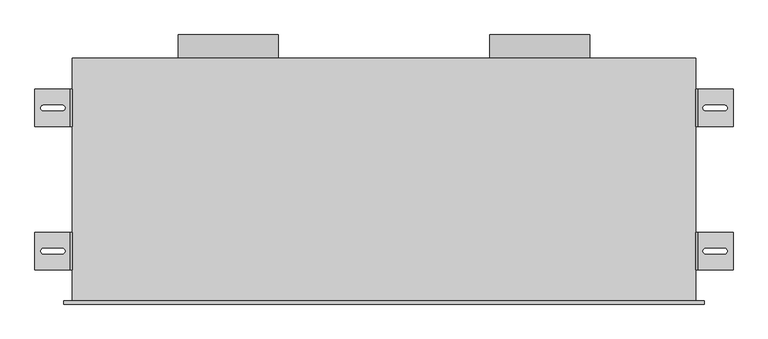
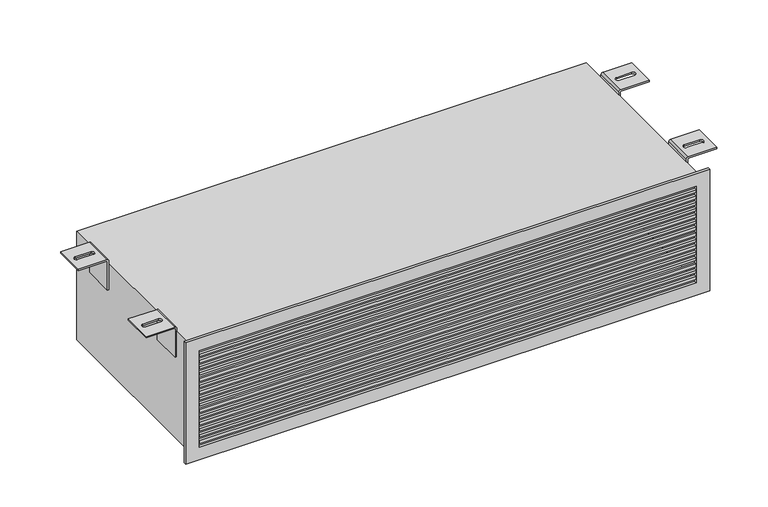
"""IFC4 building model written with IfcOpenShell, lengths in millimetres: air terminal geometry, EOL - Mural - 2 piquages : EOL-M2x160-1000x225-2."""

from ifc_helpers import new_model, si_unit, point, frame, frame_2d, origin, place, context, project, spatial, polyline, circle_curve, ellipse_curve, trimmed, segment, composite_curve, outline, extrude, source, transform, mapped, element, save
from ifc_brep_helpers import plane_surface, cylinder_surface, revolved_surface, extruded_surface, advanced_brep


def air_terminal_380ac813(model_context):
    return source(origin(), model_context, "Body", "SolidModel", [
        advanced_brep(
        [(504.0013366, 110.0, 121.5), (560.0, 110.0, 121.5), (560.0, 110.0, 118.5), (504.0, 110.0, 118.5), (503.0, 110.0, 117.5), (503.0, 110.0, 58.5), (500.0, 110.0, 58.5), (500.0, 110.0, 117.4986634), (504.0013366, 50.0, 121.5), (500.0, 50.0, 117.4986634), (500.0, 50.0, 58.5), (503.0, 50.0, 58.5), (503.0, 50.0, 117.5), (504.0, 50.0, 118.5), (560.0, 50.0, 118.5), (560.0, 50.0, 121.5), (546.0287952, 75.4804328, 121.5), (516.0287952, 75.4804328, 121.5), (516.0287952, 84.4804328, 121.5), (546.0287952, 84.4804328, 121.5), (516.0287952, 75.4804328, 118.5), (546.0287952, 75.4804328, 118.5), (546.0287952, 84.4804328, 118.5), (516.0287952, 84.4804328, 118.5)],
        [
            (0, 1),
            (1, 2),
            (2, 3),
            (3, 4, circle_curve(frame((504.0, 110.0, 117.5), z_axis=(0.0, -1.0, 0.0), x_axis=(-1.0000000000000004, 0.0, 0.0)), 1.0)),
            (4, 5),
            (5, 6),
            (6, 7),
            (7, 0, circle_curve(frame((504.0013366, 110.0, 117.4986634), z_axis=(0.0, 1.0, 0.0), x_axis=(-1.0000000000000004, 0.0, 0.0)), 4.0013366)),
            (8, 9, circle_curve(frame((504.0013366, 50.0, 117.4986634), z_axis=(0.0, -1.0, 0.0), x_axis=(-1.0000000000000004, 0.0, 0.0)), 4.0013366)),
            (9, 10),
            (10, 11),
            (11, 12),
            (12, 13, circle_curve(frame((504.0, 50.0, 117.5), z_axis=(0.0, 1.0, 0.0), x_axis=(-1.0000000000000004, 0.0, 0.0)), 1.0)),
            (13, 14),
            (14, 15),
            (15, 8),
            (0, 8),
            (15, 1),
            (16, 17),
            (17, 18, circle_curve(frame((516.0287952, 79.9804328, 121.5), z_axis=(0.0, 0.0, -1.0), x_axis=(0.0, -1.0, 0.0)), 4.5)),
            (18, 19),
            (19, 16, circle_curve(frame((546.0287952, 79.9804328, 121.5), z_axis=(0.0, 0.0, -1.0), x_axis=(0.0, -1.0, 0.0)), 4.5)),
            (14, 2),
            (13, 3),
            (20, 21),
            (21, 22, ellipse_curve(frame((546.0287952, 79.9804328, 118.5), z_axis=(0.0, 0.0, 1.0), x_axis=(0.0, -1.0, 0.0)), 4.5, 4.5)),
            (22, 23),
            (23, 20, ellipse_curve(frame((516.0287952, 79.9804328, 118.5), z_axis=(0.0, 0.0, 1.0), x_axis=(0.0, -1.0, 0.0)), 4.5, 4.5)),
            (12, 4),
            (11, 5),
            (10, 6),
            (9, 7),
            (16, 21),
            (20, 17),
            (19, 22),
            (18, 23),
        ],
        [
            plane_surface(frame((560.0, 110.0, 121.5), z_axis=(0.0, 1.0, 0.0), x_axis=(1.0, 0.0, 0.0))),
            plane_surface(frame((560.0, 50.0, 121.5), z_axis=(0.0, -1.0, 0.0), x_axis=(-1.0, 0.0, 0.0))),
            plane_surface(frame((504.0013366, 110.0, 121.5), z_axis=(0.0, 0.0, 1.0), x_axis=(0.0, -1.0, 0.0))),
            plane_surface(frame((560.0, 110.0, 121.5), z_axis=(1.0, 0.0, 0.0), x_axis=(0.0, -1.0, 0.0))),
            plane_surface(frame((560.0, 110.0, 118.5), z_axis=(0.0, 0.0, -1.0), x_axis=(0.0, -1.0, 0.0))),
            revolved_surface(polyline([(503.0, 50.0, 117.5), (503.0, 110.00000000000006, 117.5)]), (504.0, 50.0, 117.5), (0.0, -1.0000000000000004, 0.0)),
            plane_surface(frame((503.0, 110.0, 117.5), z_axis=(1.0, 0.0, 0.0), x_axis=(0.0, -1.0, 0.0))),
            plane_surface(frame((503.0, 110.0, 58.5), z_axis=(0.0, 0.0, -1.0), x_axis=(0.0, -1.0, 0.0))),
            plane_surface(frame((500.0, 110.0, 58.5), z_axis=(-1.0, 0.0, 0.0), x_axis=(0.0, -1.0, 0.0))),
            cylinder_surface(frame((504.0013366, 50.0, 117.4986634), z_axis=(0.0, 1.0000000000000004, 0.0), x_axis=(-1.0000000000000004, 0.0, 0.0)), 4.0013366),
            plane_surface(frame((516.0287952, 75.4804328, 121.5), z_axis=(0.0, 1.0, 0.0), x_axis=(0.0, 0.0, -1.0))),
            extruded_surface(trimmed(ellipse_curve(frame((546.0287952, 79.9804328, 118.5), z_axis=(0.0, 0.0, 1.0), x_axis=(0.0, -1.0, 0.0)), 4.5, 4.5), [point((546.0287952, 75.4804328, 118.5))], [point((546.0287952, 84.4804328, 118.5))], True, "CARTESIAN"), (0.0, 0.0, -3.0), 3.0),
            plane_surface(frame((546.0287952, 84.4804328, 121.5), z_axis=(0.0, -1.0, 0.0), x_axis=(0.0, 0.0, -1.0))),
            extruded_surface(trimmed(ellipse_curve(frame((516.0287952, 79.9804328, 118.5), z_axis=(0.0, 0.0, 1.0), x_axis=(0.0, -1.0, 0.0)), 4.5, 4.5), [point((516.0287952, 84.4804328, 118.5))], [point((516.0287952, 75.4804328, 118.5))], True, "CARTESIAN"), (0.0, 0.0, -3.0), 3.0),
        ],
        [
            (0, [[1, 2, 3, 4, 5, 6, 7, 8]]),
            (1, [[9, 10, 11, 12, 13, 14, 15, 16]]),
            (2, [[-1, 17, -16, 18], [19, 20, 21, 22]]),
            (3, [[-2, -18, -15, 23]]),
            (4, [[-3, -23, -14, 24], [25, 26, 27, 28]]),
            (5, [[-4, -24, -13, 29]]),
            (6, [[-5, -29, -12, 30]]),
            (7, [[-6, -30, -11, 31]]),
            (8, [[-7, -31, -10, 32]]),
            (9, [[-8, -32, -9, -17]]),
            (10, [[33, -25, 34, -19]]),
            (11, [[-33, -22, 35, -26]]),
            (12, [[-35, -21, 36, -27]]),
            (13, [[-34, -28, -36, -20]]),
        ],
    ),
        advanced_brep(
        [(504.0013366, 340.0, 121.5), (560.0, 340.0, 121.5), (560.0, 340.0, 118.5), (504.0, 340.0, 118.5), (503.0, 340.0, 117.5), (503.0, 340.0, 58.5), (500.0, 340.0, 58.5), (500.0, 340.0, 117.4986634), (504.0013366, 280.0, 121.5), (500.0, 280.0, 117.4986634), (500.0, 280.0, 58.5), (503.0, 280.0, 58.5), (503.0, 280.0, 117.5), (504.0, 280.0, 118.5), (560.0, 280.0, 118.5), (560.0, 280.0, 121.5), (546.0287952, 305.4804328, 121.5), (516.0287952, 305.4804328, 121.5), (516.0287952, 314.4804328, 121.5), (546.0287952, 314.4804328, 121.5), (516.0287952, 305.4804328, 118.5), (546.0287952, 305.4804328, 118.5), (546.0287952, 314.4804328, 118.5), (516.0287952, 314.4804328, 118.5)],
        [
            (0, 1),
            (1, 2),
            (2, 3),
            (3, 4, circle_curve(frame((504.0, 340.0, 117.5), z_axis=(0.0, -1.0, 0.0), x_axis=(-1.0, 0.0, 0.0)), 1.0)),
            (4, 5),
            (5, 6),
            (6, 7),
            (7, 0, circle_curve(frame((504.0013366, 340.0, 117.4986634), z_axis=(0.0, 1.0, 0.0), x_axis=(-1.0, 0.0, 0.0)), 4.0013366)),
            (8, 9, circle_curve(frame((504.0013366, 280.0, 117.4986634), z_axis=(0.0, -1.0, 0.0), x_axis=(-1.0, 0.0, 0.0)), 4.0013366)),
            (9, 10),
            (10, 11),
            (11, 12),
            (12, 13, circle_curve(frame((504.0, 280.0, 117.5), z_axis=(0.0, 1.0, 0.0), x_axis=(-1.0, 0.0, 0.0)), 1.0)),
            (13, 14),
            (14, 15),
            (15, 8),
            (0, 8),
            (15, 1),
            (16, 17),
            (17, 18, circle_curve(frame((516.0287952, 309.9804328, 121.5), z_axis=(0.0, 0.0, -1.0), x_axis=(0.0, -1.0, 0.0)), 4.5)),
            (18, 19),
            (19, 16, circle_curve(frame((546.0287952, 309.9804328, 121.5), z_axis=(0.0, 0.0, -1.0), x_axis=(0.0, -1.0, 0.0)), 4.5)),
            (14, 2),
            (13, 3),
            (20, 21),
            (21, 22, ellipse_curve(frame((546.0287952, 309.9804328, 118.5), z_axis=(0.0, 0.0, 1.0), x_axis=(0.0, -1.0, 0.0)), 4.5, 4.5)),
            (22, 23),
            (23, 20, ellipse_curve(frame((516.0287952, 309.9804328, 118.5), z_axis=(0.0, 0.0, 1.0), x_axis=(0.0, -1.0, 0.0)), 4.5, 4.5)),
            (12, 4),
            (11, 5),
            (10, 6),
            (9, 7),
            (16, 21),
            (20, 17),
            (19, 22),
            (18, 23),
        ],
        [
            plane_surface(frame((560.0, 340.0, 121.5), z_axis=(0.0, 1.0, 0.0), x_axis=(1.0, 0.0, 0.0))),
            plane_surface(frame((560.0, 280.0, 121.5), z_axis=(0.0, -1.0, 0.0), x_axis=(-1.0, 0.0, 0.0))),
            plane_surface(frame((504.0013366, 340.0, 121.5), z_axis=(0.0, 0.0, 1.0), x_axis=(0.0, -1.0, 0.0))),
            plane_surface(frame((560.0, 340.0, 121.5), z_axis=(1.0, 0.0, 0.0), x_axis=(0.0, -1.0, 0.0))),
            plane_surface(frame((560.0, 340.0, 118.5), z_axis=(0.0, 0.0, -1.0), x_axis=(0.0, -1.0, 0.0))),
            revolved_surface(polyline([(503.0, 280.0, 117.5), (503.0, 340.0, 117.5)]), (504.0, 280.0, 117.5), (0.0, -1.0, 0.0)),
            plane_surface(frame((503.0, 340.0, 117.5), z_axis=(1.0, 0.0, 0.0), x_axis=(0.0, -1.0, 0.0))),
            plane_surface(frame((503.0, 340.0, 58.5), z_axis=(0.0, 0.0, -1.0), x_axis=(0.0, -1.0, 0.0))),
            plane_surface(frame((500.0, 340.0, 58.5), z_axis=(-1.0, 0.0, 0.0), x_axis=(0.0, -1.0, 0.0))),
            cylinder_surface(frame((504.0013366, 280.0, 117.4986634), z_axis=(0.0, 1.0, 0.0), x_axis=(-1.0, 0.0, 0.0)), 4.0013366),
            plane_surface(frame((516.0287952, 305.4804328, 121.5), z_axis=(0.0, 1.0, 0.0), x_axis=(0.0, 0.0, -1.0))),
            extruded_surface(trimmed(ellipse_curve(frame((546.0287952, 309.9804328, 118.5), z_axis=(0.0, 0.0, 1.0), x_axis=(0.0, -1.0, 0.0)), 4.5, 4.5), [point((546.0287952, 305.4804328, 118.5))], [point((546.0287952, 314.4804328, 118.5))], True, "CARTESIAN"), (0.0, 0.0, -3.0), 3.0),
            plane_surface(frame((546.0287952, 314.4804328, 121.5), z_axis=(0.0, -1.0, 0.0), x_axis=(0.0, 0.0, -1.0))),
            extruded_surface(trimmed(ellipse_curve(frame((516.0287952, 309.9804328, 118.5), z_axis=(0.0, 0.0, 1.0), x_axis=(0.0, -1.0, 0.0)), 4.5, 4.5), [point((516.0287952, 314.4804328, 118.5))], [point((516.0287952, 305.4804328, 118.5))], True, "CARTESIAN"), (0.0, 0.0, -3.0), 3.0),
        ],
        [
            (0, [[1, 2, 3, 4, 5, 6, 7, 8]]),
            (1, [[9, 10, 11, 12, 13, 14, 15, 16]]),
            (2, [[-1, 17, -16, 18], [19, 20, 21, 22]]),
            (3, [[-2, -18, -15, 23]]),
            (4, [[-3, -23, -14, 24], [25, 26, 27, 28]]),
            (5, [[-4, -24, -13, 29]]),
            (6, [[-5, -29, -12, 30]]),
            (7, [[-6, -30, -11, 31]]),
            (8, [[-7, -31, -10, 32]]),
            (9, [[-8, -32, -9, -17]]),
            (10, [[33, -25, 34, -19]]),
            (11, [[-33, -22, 35, -26]]),
            (12, [[-35, -21, 36, -27]]),
            (13, [[-34, -28, -36, -20]]),
        ],
    ),
        advanced_brep(
        [(-504.0013366, 50.0, 121.5), (-560.0, 50.0, 121.5), (-560.0, 50.0, 118.5), (-504.0, 50.0, 118.5), (-503.0, 50.0, 117.5), (-503.0, 50.0, 58.5), (-500.0, 50.0, 58.5), (-500.0, 50.0, 117.4986634), (-504.0013366, 110.0, 121.5), (-500.0, 110.0, 117.4986634), (-500.0, 110.0, 58.5), (-503.0, 110.0, 58.5), (-503.0, 110.0, 117.5), (-504.0, 110.0, 118.5), (-560.0, 110.0, 118.5), (-560.0, 110.0, 121.5), (-546.0287952, 84.5195672, 121.5), (-516.0287952, 84.5195672, 121.5), (-516.0287952, 75.5195672, 121.5), (-546.0287952, 75.5195672, 121.5), (-516.0287952, 84.5195672, 118.5), (-546.0287952, 84.5195672, 118.5), (-546.0287952, 75.5195672, 118.5), (-516.0287952, 75.5195672, 118.5)],
        [
            (0, 1),
            (1, 2),
            (2, 3),
            (3, 4, circle_curve(frame((-504.0, 50.0, 117.5), z_axis=(0.0, 1.0, 0.0), x_axis=(1.0, 0.0, 0.0)), 1.0)),
            (4, 5),
            (5, 6),
            (6, 7),
            (7, 0, circle_curve(frame((-504.0013366, 50.0, 117.4986634), z_axis=(0.0, -1.0, 0.0), x_axis=(1.0, 0.0, 0.0)), 4.0013366)),
            (8, 9, circle_curve(frame((-504.0013366, 110.0, 117.4986634), z_axis=(0.0, 1.0, 0.0), x_axis=(1.0, 0.0, 0.0)), 4.0013366)),
            (9, 10),
            (10, 11),
            (11, 12),
            (12, 13, circle_curve(frame((-504.0, 110.0, 117.5), z_axis=(0.0, -1.0, 0.0), x_axis=(1.0, 0.0, 0.0)), 1.0)),
            (13, 14),
            (14, 15),
            (15, 8),
            (0, 8),
            (15, 1),
            (16, 17),
            (17, 18, circle_curve(frame((-516.0287952, 80.0195672, 121.5), z_axis=(0.0, 0.0, -1.0), x_axis=(0.0, 1.0, 0.0)), 4.5)),
            (18, 19),
            (19, 16, circle_curve(frame((-546.0287952, 80.0195672, 121.5), z_axis=(0.0, 0.0, -1.0), x_axis=(0.0, 1.0, 0.0)), 4.5)),
            (14, 2),
            (13, 3),
            (20, 21),
            (21, 22, ellipse_curve(frame((-546.0287952, 80.0195672, 118.5), z_axis=(0.0, 0.0, 1.0), x_axis=(0.0, 1.0, 0.0)), 4.5, 4.5)),
            (22, 23),
            (23, 20, ellipse_curve(frame((-516.0287952, 80.0195672, 118.5), z_axis=(0.0, 0.0, 1.0), x_axis=(0.0, 1.0, 0.0)), 4.5, 4.5)),
            (12, 4),
            (11, 5),
            (10, 6),
            (9, 7),
            (16, 21),
            (20, 17),
            (19, 22),
            (18, 23),
        ],
        [
            plane_surface(frame((-560.0, 50.0, 121.5), z_axis=(0.0, -1.0, 0.0), x_axis=(-1.0, 0.0, 0.0))),
            plane_surface(frame((-560.0, 110.0, 121.5), z_axis=(0.0, 1.0, 0.0), x_axis=(1.0, 0.0, 0.0))),
            plane_surface(frame((-504.0013366, 50.0, 121.5), z_axis=(0.0, 0.0, 1.0), x_axis=(0.0, 1.0, 0.0))),
            plane_surface(frame((-560.0, 50.0, 121.5), z_axis=(-1.0, 0.0, 0.0), x_axis=(0.0, 1.0, 0.0))),
            plane_surface(frame((-560.0, 50.0, 118.5), z_axis=(0.0, 0.0, -1.0), x_axis=(0.0, 1.0, 0.0))),
            revolved_surface(polyline([(-503.0, 110.0, 117.5), (-503.0, 50.0, 117.5)]), (-504.0, 110.0, 117.5), (0.0, 1.0, 0.0)),
            plane_surface(frame((-503.0, 50.0, 117.5), z_axis=(-1.0, 0.0, 0.0), x_axis=(0.0, 1.0, 0.0))),
            plane_surface(frame((-503.0, 50.0, 58.5), z_axis=(0.0, 0.0, -1.0), x_axis=(0.0, 1.0, 0.0))),
            plane_surface(frame((-500.0, 50.0, 58.5), z_axis=(1.0, 0.0, 0.0), x_axis=(0.0, 1.0, 0.0))),
            cylinder_surface(frame((-504.0013366, 110.0, 117.4986634), z_axis=(0.0, -1.0, 0.0), x_axis=(1.0, 0.0, 0.0)), 4.0013366),
            plane_surface(frame((-516.0287952, 84.5195672, 121.5), z_axis=(0.0, -1.0, 0.0), x_axis=(0.0, 0.0, -1.0))),
            extruded_surface(trimmed(ellipse_curve(frame((-546.0287952, 80.0195672, 118.5), z_axis=(0.0, 0.0, 1.0), x_axis=(0.0, 1.0, 0.0)), 4.5, 4.5), [point((-546.0287952, 84.5195672, 118.5))], [point((-546.0287952, 75.5195672, 118.5))], True, "CARTESIAN"), (0.0, 0.0, -3.0), 3.0),
            plane_surface(frame((-546.0287952, 75.5195672, 121.5), z_axis=(0.0, 1.0, 0.0), x_axis=(0.0, 0.0, -1.0))),
            extruded_surface(trimmed(ellipse_curve(frame((-516.0287952, 80.0195672, 118.5), z_axis=(0.0, 0.0, 1.0), x_axis=(0.0, 1.0, 0.0)), 4.5, 4.5), [point((-516.0287952, 75.5195672, 118.5))], [point((-516.0287952, 84.5195672, 118.5))], True, "CARTESIAN"), (0.0, 0.0, -3.0), 3.0),
        ],
        [
            (0, [[1, 2, 3, 4, 5, 6, 7, 8]]),
            (1, [[9, 10, 11, 12, 13, 14, 15, 16]]),
            (2, [[-1, 17, -16, 18], [19, 20, 21, 22]]),
            (3, [[-2, -18, -15, 23]]),
            (4, [[-3, -23, -14, 24], [25, 26, 27, 28]]),
            (5, [[-4, -24, -13, 29]]),
            (6, [[-5, -29, -12, 30]]),
            (7, [[-6, -30, -11, 31]]),
            (8, [[-7, -31, -10, 32]]),
            (9, [[-8, -32, -9, -17]]),
            (10, [[33, -25, 34, -19]]),
            (11, [[-33, -22, 35, -26]]),
            (12, [[-35, -21, 36, -27]]),
            (13, [[-34, -28, -36, -20]]),
        ],
    ),
        advanced_brep(
        [(-504.0013366, 280.0, 121.5), (-560.0, 280.0, 121.5), (-560.0, 280.0, 118.5), (-504.0, 280.0, 118.5), (-503.0, 280.0, 117.5), (-503.0, 280.0, 58.5), (-500.0, 280.0, 58.5), (-500.0, 280.0, 117.4986634), (-504.0013366, 340.0, 121.5), (-500.0, 340.0, 117.4986634), (-500.0, 340.0, 58.5), (-503.0, 340.0, 58.5), (-503.0, 340.0, 117.5), (-504.0, 340.0, 118.5), (-560.0, 340.0, 118.5), (-560.0, 340.0, 121.5), (-546.0287952, 314.5195672, 121.5), (-516.0287952, 314.5195672, 121.5), (-516.0287952, 305.5195672, 121.5), (-546.0287952, 305.5195672, 121.5), (-516.0287952, 314.5195672, 118.5), (-546.0287952, 314.5195672, 118.5), (-546.0287952, 305.5195672, 118.5), (-516.0287952, 305.5195672, 118.5)],
        [
            (0, 1),
            (1, 2),
            (2, 3),
            (3, 4, circle_curve(frame((-504.0, 280.0, 117.5), z_axis=(0.0, 1.0, 0.0), x_axis=(1.0, 0.0, 0.0)), 1.0)),
            (4, 5),
            (5, 6),
            (6, 7),
            (7, 0, circle_curve(frame((-504.0013366, 280.0, 117.4986634), z_axis=(0.0, -1.0, 0.0), x_axis=(1.0, 0.0, 0.0)), 4.0013366)),
            (8, 9, circle_curve(frame((-504.0013366, 340.0, 117.4986634), z_axis=(0.0, 1.0, 0.0), x_axis=(1.0, 0.0, 0.0)), 4.0013366)),
            (9, 10),
            (10, 11),
            (11, 12),
            (12, 13, circle_curve(frame((-504.0, 340.0, 117.5), z_axis=(0.0, -1.0, 0.0), x_axis=(1.0, 0.0, 0.0)), 1.0)),
            (13, 14),
            (14, 15),
            (15, 8),
            (0, 8),
            (15, 1),
            (16, 17),
            (17, 18, circle_curve(frame((-516.0287952, 310.0195672, 121.5), z_axis=(0.0, 0.0, -1.0), x_axis=(0.0, 1.0, 0.0)), 4.5)),
            (18, 19),
            (19, 16, circle_curve(frame((-546.0287952, 310.0195672, 121.5), z_axis=(0.0, 0.0, -1.0), x_axis=(0.0, 1.0, 0.0)), 4.5)),
            (14, 2),
            (13, 3),
            (20, 21),
            (21, 22, ellipse_curve(frame((-546.0287952, 310.0195672, 118.5), z_axis=(0.0, 0.0, 1.0), x_axis=(0.0, 1.0, 0.0)), 4.5, 4.5)),
            (22, 23),
            (23, 20, ellipse_curve(frame((-516.0287952, 310.0195672, 118.5), z_axis=(0.0, 0.0, 1.0), x_axis=(0.0, 1.0, 0.0)), 4.5, 4.5)),
            (12, 4),
            (11, 5),
            (10, 6),
            (9, 7),
            (16, 21),
            (20, 17),
            (19, 22),
            (18, 23),
        ],
        [
            plane_surface(frame((-560.0, 280.0, 121.5), z_axis=(0.0, -1.0, 0.0), x_axis=(-1.0, 0.0, 0.0))),
            plane_surface(frame((-560.0, 340.0, 121.5), z_axis=(0.0, 1.0, 0.0), x_axis=(1.0, 0.0, 0.0))),
            plane_surface(frame((-504.0013366, 280.0, 121.5), z_axis=(0.0, 0.0, 1.0), x_axis=(0.0, 1.0, 0.0))),
            plane_surface(frame((-560.0, 280.0, 121.5), z_axis=(-1.0, 0.0, 0.0), x_axis=(0.0, 1.0, 0.0))),
            plane_surface(frame((-560.0, 280.0, 118.5), z_axis=(0.0, 0.0, -1.0), x_axis=(0.0, 1.0, 0.0))),
            revolved_surface(polyline([(-503.0, 340.0, 117.5), (-503.0, 280.0, 117.5)]), (-504.0, 340.0, 117.5), (0.0, 1.0, 0.0)),
            plane_surface(frame((-503.0, 280.0, 117.5), z_axis=(-1.0, 0.0, 0.0), x_axis=(0.0, 1.0, 0.0))),
            plane_surface(frame((-503.0, 280.0, 58.5), z_axis=(0.0, 0.0, -1.0), x_axis=(0.0, 1.0, 0.0))),
            plane_surface(frame((-500.0, 280.0, 58.5), z_axis=(1.0, 0.0, 0.0), x_axis=(0.0, 1.0, 0.0))),
            cylinder_surface(frame((-504.0013366, 340.0, 117.4986634), z_axis=(0.0, -1.0, 0.0), x_axis=(1.0, 0.0, 0.0)), 4.0013366),
            plane_surface(frame((-516.0287952, 314.5195672, 121.5), z_axis=(0.0, -1.0, 0.0), x_axis=(0.0, 0.0, -1.0))),
            extruded_surface(trimmed(ellipse_curve(frame((-546.0287952, 310.0195672, 118.5), z_axis=(0.0, 0.0, 1.0), x_axis=(0.0, 1.0, 0.0)), 4.5, 4.5), [point((-546.0287952, 314.5195672, 118.5))], [point((-546.0287952, 305.5195672, 118.5))], True, "CARTESIAN"), (0.0, 0.0, -3.0), 3.0),
            plane_surface(frame((-546.0287952, 305.5195672, 121.5), z_axis=(0.0, 1.0, 0.0), x_axis=(0.0, 0.0, -1.0))),
            extruded_surface(trimmed(ellipse_curve(frame((-516.0287952, 310.0195672, 118.5), z_axis=(0.0, 0.0, 1.0), x_axis=(0.0, 1.0, 0.0)), 4.5, 4.5), [point((-516.0287952, 305.5195672, 118.5))], [point((-516.0287952, 314.5195672, 118.5))], True, "CARTESIAN"), (0.0, 0.0, -3.0), 3.0),
        ],
        [
            (0, [[1, 2, 3, 4, 5, 6, 7, 8]]),
            (1, [[9, 10, 11, 12, 13, 14, 15, 16]]),
            (2, [[-1, 17, -16, 18], [19, 20, 21, 22]]),
            (3, [[-2, -18, -15, 23]]),
            (4, [[-3, -23, -14, 24], [25, 26, 27, 28]]),
            (5, [[-4, -24, -13, 29]]),
            (6, [[-5, -29, -12, 30]]),
            (7, [[-6, -30, -11, 31]]),
            (8, [[-7, -31, -10, 32]]),
            (9, [[-8, -32, -9, -17]]),
            (10, [[33, -25, 34, -19]]),
            (11, [[-33, -22, 35, -26]]),
            (12, [[-35, -21, 36, -27]]),
            (13, [[-34, -28, -36, -20]]),
        ],
    ),
        extrude(outline(composite_curve([segment(trimmed(circle_curve(frame_2d((0.0, 250.0)), 80.0), [point((0.0, 170.0))], [point((0.0, 330.0))], False, "CARTESIAN"), True, "CONTINUOUS"), segment(trimmed(circle_curve(frame_2d((0.0, 250.0)), 80.0), [point((0.0, 330.0))], [point((0.0, 170.0))], False, "CARTESIAN"), True, "CONTINUOUS")], self_intersect=False), holes=[composite_curve([segment(trimmed(circle_curve(frame_2d((0.0, 250.0)), 79.0), [point((0.0, 329.0))], [point((0.0, 171.0))], True, "CARTESIAN"), True, "CONTINUOUS"), segment(trimmed(circle_curve(frame_2d((0.0, 250.0)), 79.0), [point((0.0, 171.0))], [point((0.0, 329.0))], True, "CARTESIAN"), True, "CONTINUOUS")], self_intersect=False)]), frame((0.0, 390.0, 0.0), z_axis=(0.0, 1.0, 0.0), x_axis=(0.0, 0.0, 1.0)), (0.0, 0.0, 1.0), 37.5),
        extrude(outline(composite_curve([segment(trimmed(circle_curve(frame_2d((0.0, -250.0)), 80.0), [point((0.0, -330.0))], [point((0.0, -170.0))], False, "CARTESIAN"), True, "CONTINUOUS"), segment(trimmed(circle_curve(frame_2d((0.0, -250.0)), 80.0), [point((0.0, -170.0))], [point((0.0, -330.0))], False, "CARTESIAN"), True, "CONTINUOUS")], self_intersect=False), holes=[composite_curve([segment(trimmed(circle_curve(frame_2d((0.0, -250.0)), 79.0), [point((0.0, -171.0))], [point((0.0, -329.0))], True, "CARTESIAN"), True, "CONTINUOUS"), segment(trimmed(circle_curve(frame_2d((0.0, -250.0)), 79.0), [point((0.0, -329.0))], [point((0.0, -171.0))], True, "CARTESIAN"), True, "CONTINUOUS")], self_intersect=False)]), frame((0.0, 390.0, 0.0), z_axis=(0.0, 1.0, 0.0), x_axis=(0.0, 0.0, 1.0)), (0.0, 0.0, 1.0), 37.5),
        extrude(outline(polyline([(487.5, 0.0), (487.5, -5.0), (-487.5, -5.0), (-487.5, 0.0), (487.5, 0.0)])), frame((0.0, 0.0, 87.15), z_axis=(0.0, 0.0, 1.0), x_axis=(1.0, 0.0, 0.0)), (0.0, 0.0, 1.0), 5.6),
        extrude(outline(polyline([(487.5, 0.0), (487.5, -5.0), (-487.5, -5.0), (-487.5, 0.0), (487.5, 0.0)])), frame((0.0, 0.0, 74.3), z_axis=(0.0, 0.0, 1.0), x_axis=(1.0, 0.0, 0.0)), (0.0, 0.0, 1.0), 5.6),
        extrude(outline(polyline([(487.5, 0.0), (487.5, -5.0), (-487.5, -5.0), (-487.5, 0.0), (487.5, 0.0)])), frame((0.0, 0.0, 61.45), z_axis=(0.0, 0.0, 1.0), x_axis=(1.0, 0.0, 0.0)), (0.0, 0.0, 1.0), 5.6),
        extrude(outline(polyline([(487.5, 0.0), (487.5, -5.0), (-487.5, -5.0), (-487.5, 0.0), (487.5, 0.0)])), frame((0.0, 0.0, 48.6), z_axis=(0.0, 0.0, 1.0), x_axis=(1.0, 0.0, 0.0)), (0.0, 0.0, 1.0), 5.6),
        extrude(outline(polyline([(487.5, 0.0), (487.5, -5.0), (-487.5, -5.0), (-487.5, 0.0), (487.5, 0.0)])), frame((0.0, 0.0, 35.75), z_axis=(0.0, 0.0, 1.0), x_axis=(1.0, 0.0, 0.0)), (0.0, 0.0, 1.0), 5.6),
        extrude(outline(polyline([(487.5, 0.0), (487.5, -5.0), (-487.5, -5.0), (-487.5, 0.0), (487.5, 0.0)])), frame((0.0, 0.0, 22.9), z_axis=(0.0, 0.0, 1.0), x_axis=(1.0, 0.0, 0.0)), (0.0, 0.0, 1.0), 5.6),
        extrude(outline(polyline([(487.5, 0.0), (487.5, -5.0), (-487.5, -5.0), (-487.5, 0.0), (487.5, 0.0)])), frame((0.0, 0.0, 10.05), z_axis=(0.0, 0.0, 1.0), x_axis=(1.0, 0.0, 0.0)), (0.0, 0.0, 1.0), 5.6),
        extrude(outline(polyline([(487.5, 0.0), (487.5, -5.0), (-487.5, -5.0), (-487.5, 0.0), (487.5, 0.0)])), frame((0.0, 0.0, -2.8), z_axis=(0.0, 0.0, 1.0), x_axis=(1.0, 0.0, 0.0)), (0.0, 0.0, 1.0), 5.6),
        extrude(outline(polyline([(487.5, 0.0), (487.5, -5.0), (-487.5, -5.0), (-487.5, 0.0), (487.5, 0.0)])), frame((0.0, 0.0, -15.65), z_axis=(0.0, 0.0, 1.0), x_axis=(1.0, 0.0, 0.0)), (0.0, 0.0, 1.0), 5.6),
        extrude(outline(polyline([(487.5, 0.0), (487.5, -5.0), (-487.5, -5.0), (-487.5, 0.0), (487.5, 0.0)])), frame((0.0, 0.0, -28.5), z_axis=(0.0, 0.0, 1.0), x_axis=(1.0, 0.0, 0.0)), (0.0, 0.0, 1.0), 5.6),
        extrude(outline(polyline([(487.5, 0.0), (487.5, -5.0), (-487.5, -5.0), (-487.5, 0.0), (487.5, 0.0)])), frame((0.0, 0.0, -41.35), z_axis=(0.0, 0.0, 1.0), x_axis=(1.0, 0.0, 0.0)), (0.0, 0.0, 1.0), 5.6),
        extrude(outline(polyline([(487.5, 0.0), (487.5, -5.0), (-487.5, -5.0), (-487.5, 0.0), (487.5, 0.0)])), frame((0.0, 0.0, -54.2), z_axis=(0.0, 0.0, 1.0), x_axis=(1.0, 0.0, 0.0)), (0.0, 0.0, 1.0), 5.6),
        extrude(outline(polyline([(487.5, 0.0), (487.5, -5.0), (-487.5, -5.0), (-487.5, 0.0), (487.5, 0.0)])), frame((0.0, 0.0, -67.05), z_axis=(0.0, 0.0, 1.0), x_axis=(1.0, 0.0, 0.0)), (0.0, 0.0, 1.0), 5.6),
        extrude(outline(polyline([(487.5, 0.0), (487.5, -5.0), (-487.5, -5.0), (-487.5, 0.0), (487.5, 0.0)])), frame((0.0, 0.0, -79.9), z_axis=(0.0, 0.0, 1.0), x_axis=(1.0, 0.0, 0.0)), (0.0, 0.0, 1.0), 5.6),
        extrude(outline(polyline([(487.5, 0.0), (487.5, -5.0), (-487.5, -5.0), (-487.5, 0.0), (487.5, 0.0)])), frame((0.0, 0.0, -92.75), z_axis=(0.0, 0.0, 1.0), x_axis=(1.0, 0.0, 0.0)), (0.0, 0.0, 1.0), 5.6),
        extrude(outline(polyline([(126.0, 514.0), (126.0, -514.0), (-126.0, -514.0), (-126.0, 514.0), (126.0, 514.0)]), holes=[polyline([(100.0, 487.5), (-100.0, 487.5), (-100.0, -487.5), (100.0, -487.5), (100.0, 487.5)])]), frame((0.0, -5.0, 0.0), z_axis=(0.0, 1.0, 0.0), x_axis=(0.0, 0.0, 1.0)), (0.0, 0.0, 1.0), 5.0),
        advanced_brep(
        [(500.0, 390.0, 112.5), (-500.0, 390.0, 112.5), (-500.0, 0.0, 112.5), (500.0, 0.0, 112.5), (500.0, 390.0, -112.5), (500.0, 0.0, -112.5), (-500.0, 0.0, -112.5), (-500.0, 390.0, -112.5), (171.0, 390.0, 0.0), (329.0, 390.0, 0.0), (-329.0, 390.0, 0.0), (-171.0, 390.0, 0.0), (-495.0, 0.0, 107.5), (495.0, 0.0, 107.5), (495.0, 0.0, -107.5), (-495.0, 0.0, -107.5), (495.0, 385.0, 107.5), (-495.0, 385.0, 107.5), (495.0, 385.0, -107.5), (-495.0, 385.0, -107.5), (329.0, 385.0, 0.0), (171.0, 385.0, 0.0), (-171.0, 385.0, 0.0), (-329.0, 385.0, 0.0)],
        [
            (0, 1),
            (1, 2),
            (2, 3),
            (3, 0),
            (4, 5),
            (5, 6),
            (6, 7),
            (7, 4),
            (0, 4),
            (7, 1),
            (8, 9, circle_curve(frame((250.0, 390.0, 0.0), z_axis=(0.0, -1.0, 0.0), x_axis=(1.0, 0.0, 0.0)), 79.0)),
            (9, 8, circle_curve(frame((250.0, 390.0, 0.0), z_axis=(0.0, -1.0, 0.0), x_axis=(1.0, 0.0, 0.0)), 79.0)),
            (10, 11, circle_curve(frame((-250.0, 390.0, 0.0), z_axis=(0.0, -1.0, 0.0), x_axis=(1.0, 0.0, 0.0)), 79.0)),
            (11, 10, circle_curve(frame((-250.0, 390.0, 0.0), z_axis=(0.0, -1.0, 0.0), x_axis=(1.0, 0.0, 0.0)), 79.0)),
            (6, 2),
            (5, 3),
            (12, 13),
            (13, 14),
            (14, 15),
            (15, 12),
            (16, 13),
            (12, 17),
            (17, 16),
            (18, 19),
            (19, 15),
            (14, 18),
            (17, 19),
            (18, 16),
            (20, 21, circle_curve(frame((250.0, 385.0, 0.0), z_axis=(0.0, 1.0, 0.0), x_axis=(1.0, 0.0, 0.0)), 79.0)),
            (21, 20, circle_curve(frame((250.0, 385.0, 0.0), z_axis=(0.0, 1.0, 0.0), x_axis=(1.0, 0.0, 0.0)), 79.0)),
            (22, 23, circle_curve(frame((-250.0, 385.0, 0.0), z_axis=(0.0, 1.0, 0.0), x_axis=(1.0, 0.0, 0.0)), 79.0)),
            (23, 22, circle_curve(frame((-250.0, 385.0, 0.0), z_axis=(0.0, 1.0, 0.0), x_axis=(1.0, 0.0, 0.0)), 79.0)),
            (8, 21),
            (20, 9),
            (10, 23),
            (22, 11),
        ],
        [
            plane_surface(frame((-500.0, 390.0, 112.5), z_axis=(0.0, 0.0, 1.0), x_axis=(-1.0, 0.0, 0.0))),
            plane_surface(frame((-500.0, 390.0, -112.5), z_axis=(0.0, 0.0, -1.0), x_axis=(1.0, 0.0, 0.0))),
            plane_surface(frame((500.0, 390.0, 112.5), z_axis=(0.0, 1.0, 0.0), x_axis=(0.0, 0.0, -1.0))),
            plane_surface(frame((-500.0, 390.0, 112.5), z_axis=(-1.0, 0.0, 0.0), x_axis=(0.0, 0.0, -1.0))),
            plane_surface(frame((-500.0, 0.0, 112.5), z_axis=(0.0, -1.0, 0.0), x_axis=(0.0, 0.0, -1.0))),
            plane_surface(frame((500.0, 0.0, 112.5), z_axis=(1.0, 0.0, 0.0), x_axis=(0.0, 0.0, -1.0))),
            plane_surface(frame((-495.0, 385.0, 107.5), z_axis=(0.0, 0.0, -1.0), x_axis=(-1.0, 0.0, 0.0))),
            plane_surface(frame((-495.0, 385.0, -107.5), z_axis=(0.0, 0.0, 1.0), x_axis=(1.0, 0.0, 0.0))),
            plane_surface(frame((495.0, 385.0, 107.5), z_axis=(0.0, -1.0, 0.0), x_axis=(0.0, 0.0, -1.0))),
            plane_surface(frame((-495.0, 385.0, 107.5), z_axis=(1.0, 0.0, 0.0), x_axis=(0.0, 0.0, -1.0))),
            plane_surface(frame((495.0, 0.0, 107.5), z_axis=(-1.0, 0.0, 0.0), x_axis=(0.0, 0.0, -1.0))),
            revolved_surface(polyline([(329.0, 385.0, 0.0), (329.0, 390.0, 0.0)]), (250.0, 427.5, 0.0), (0.0, -1.0, 0.0)),
            revolved_surface(polyline([(-171.0, 385.0, 0.0), (-171.0, 390.0, 0.0)]), (-250.0, 0.0, 0.0), (0.0, -1.0, 0.0)),
        ],
        [
            (0, [[1, 2, 3, 4]]),
            (1, [[5, 6, 7, 8]]),
            (2, [[-1, 9, -8, 10], [11, 12], [13, 14]]),
            (3, [[-2, -10, -7, 15]]),
            (4, [[-3, -15, -6, 16], [17, 18, 19, 20]]),
            (5, [[-4, -16, -5, -9]]),
            (6, [[21, -17, 22, 23]]),
            (7, [[24, 25, -19, 26]]),
            (8, [[-23, 27, -24, 28], [29, 30], [31, 32]]),
            (9, [[-22, -20, -25, -27]]),
            (10, [[-21, -28, -26, -18]]),
            (11, [[33, -29, 34, -11]]),
            (11, [[-33, -12, -34, -30]]),
            (12, [[35, -31, 36, -13]]),
            (12, [[-35, -14, -36, -32]]),
        ],
    ),
    ])


if __name__ == "__main__":
    model = new_model("IFC4")
    model_context = context("Model", 3, world=origin())
    ifc_project = project(units=[si_unit("LENGTHUNIT", "METRE", prefix="MILLI")], contexts=[model_context])
    site = spatial("IfcSite", under=ifc_project)
    building = spatial("IfcBuilding", under=site)
    placement = place(None, origin())
    air_terminal_shape = air_terminal_380ac813(model_context)
    element("IfcAirTerminal", 1, ObjectType="EOL - Mural - 2 piquages : EOL-M2x160-1000x225-2", at=placement, inside=building, context=model_context, shape_type="MappedRepresentation", body=[
        mapped(air_terminal_shape, transform((0.0, 0.0, 0.0), x_axis=(1.0, 0.0, 0.0), y_axis=(0.0, 1.0, 0.0), z_axis=(0.0, 0.0, 1.0))),
    ])
    save(model, "model.ifc")
